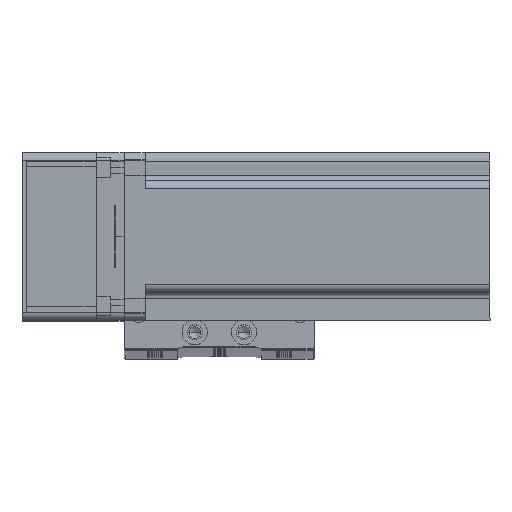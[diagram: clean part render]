
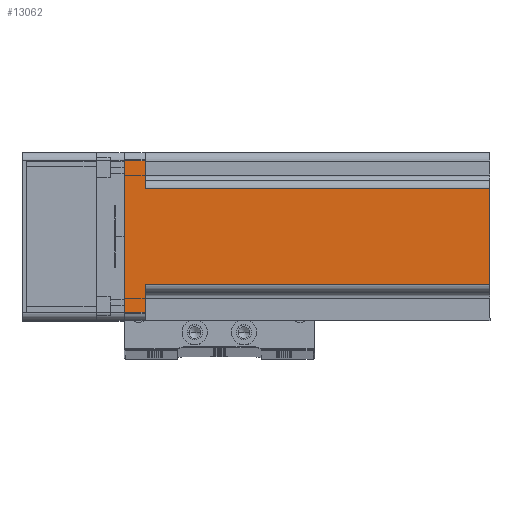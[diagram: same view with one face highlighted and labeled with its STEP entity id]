
A CAD part, top view. The second image highlights one B-rep face of the part: STEP entity #13062.
In plain terms, the highlighted planar face has unit normal (0, 0, 1) as drawn and (0, 1, 0) by its records, which use the part's own axes.
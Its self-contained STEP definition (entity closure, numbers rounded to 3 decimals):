
#2131 = LINE ( 'NONE', #20054, #27375 ) ;
#3293 = CARTESIAN_POINT ( 'NONE',  ( 27., 30., 130.7 ) ) ;
#5332 = DIRECTION ( 'NONE',  ( 1., 0., 0. ) ) ;
#5984 = DIRECTION ( 'NONE',  ( 0., -1., 0. ) ) ;
#6239 = CARTESIAN_POINT ( 'NONE',  ( 30., 30., 130.7 ) ) ;
#6434 = EDGE_CURVE ( 'NONE', #41247, #54793, #39660, .T. ) ;
#6513 = CARTESIAN_POINT ( 'NONE',  ( 20., 30., 7.5 ) ) ;
#7382 = PLANE ( 'NONE',  #10060 ) ;
#10060 = AXIS2_PLACEMENT_3D ( 'NONE', #6239, #5984, #5332 ) ;
#11048 = VERTEX_POINT ( 'NONE', #37766 ) ;
#11097 = LINE ( 'NONE', #6513, #63171 ) ;
#11552 = VERTEX_POINT ( 'NONE', #45999 ) ;
#11586 = DIRECTION ( 'NONE',  ( 0., 0., 1. ) ) ;
#13062 = ADVANCED_FACE ( 'NONE', ( #17746 ), #7382, .F. ) ;
#13360 = EDGE_CURVE ( 'NONE', #54016, #41247, #20004, .T. ) ;
#13778 = CARTESIAN_POINT ( 'NONE',  ( 17., 30., 7.5 ) ) ;
#15523 = VECTOR ( 'NONE', #42439, 1000. ) ;
#17746 = FACE_OUTER_BOUND ( 'NONE', #30673, .T. ) ;
#19145 = CARTESIAN_POINT ( 'NONE',  ( -27., 30., 0. ) ) ;
#20004 = LINE ( 'NONE', #23649, #45176 ) ;
#20054 = CARTESIAN_POINT ( 'NONE',  ( 17., 30., 130.7 ) ) ;
#20185 = ORIENTED_EDGE ( 'NONE', *, *, #64226, .T. ) ;
#21007 = ORIENTED_EDGE ( 'NONE', *, *, #13360, .T. ) ;
#21996 = CARTESIAN_POINT ( 'NONE',  ( 30., 30., 130.7 ) ) ;
#22712 = ORIENTED_EDGE ( 'NONE', *, *, #49369, .T. ) ;
#23649 = CARTESIAN_POINT ( 'NONE',  ( 30., 30., 0. ) ) ;
#24729 = ORIENTED_EDGE ( 'NONE', *, *, #58322, .T. ) ;
#25811 = EDGE_CURVE ( 'NONE', #11048, #32861, #45488, .T. ) ;
#26267 = VECTOR ( 'NONE', #42390, 1000. ) ;
#26596 = CARTESIAN_POINT ( 'NONE',  ( -17., 30., 130.7 ) ) ;
#27375 = VECTOR ( 'NONE', #29948, 1000. ) ;
#28919 = LINE ( 'NONE', #21996, #15523 ) ;
#29590 = VECTOR ( 'NONE', #48610, 1000. ) ;
#29948 = DIRECTION ( 'NONE',  ( 0., 0., -1. ) ) ;
#30673 = EDGE_LOOP ( 'NONE', ( #20185, #33510, #53296, #22712, #57299, #24729, #21007, #62991 ) ) ;
#32173 = VECTOR ( 'NONE', #11586, 1000. ) ;
#32861 = VERTEX_POINT ( 'NONE', #47149 ) ;
#33487 = CARTESIAN_POINT ( 'NONE',  ( -27., 30., 130.7 ) ) ;
#33510 = ORIENTED_EDGE ( 'NONE', *, *, #25811, .T. ) ;
#33809 = DIRECTION ( 'NONE',  ( -1., 0., 0. ) ) ;
#35924 = CARTESIAN_POINT ( 'NONE',  ( -20., 30., 7.5 ) ) ;
#36581 = CARTESIAN_POINT ( 'NONE',  ( -27., 30., 7.5 ) ) ;
#37766 = CARTESIAN_POINT ( 'NONE',  ( -17., 30., 7.5 ) ) ;
#39660 = LINE ( 'NONE', #33487, #26267 ) ;
#41247 = VERTEX_POINT ( 'NONE', #19145 ) ;
#41607 = VECTOR ( 'NONE', #46016, 1000. ) ;
#42390 = DIRECTION ( 'NONE',  ( 0., 0., 1. ) ) ;
#42439 = DIRECTION ( 'NONE',  ( -1., 0., 0. ) ) ;
#45176 = VECTOR ( 'NONE', #33809, 1000. ) ;
#45488 = LINE ( 'NONE', #26596, #32173 ) ;
#45999 = CARTESIAN_POINT ( 'NONE',  ( 17., 30., 130.7 ) ) ;
#46016 = DIRECTION ( 'NONE',  ( 1., 0., 0. ) ) ;
#47075 = EDGE_CURVE ( 'NONE', #11552, #32861, #28919, .T. ) ;
#47149 = CARTESIAN_POINT ( 'NONE',  ( -17., 30., 130.7 ) ) ;
#47216 = VERTEX_POINT ( 'NONE', #58510 ) ;
#48610 = DIRECTION ( 'NONE',  ( 0., 0., -1. ) ) ;
#49238 = LINE ( 'NONE', #3293, #29590 ) ;
#49369 = EDGE_CURVE ( 'NONE', #11552, #56677, #2131, .T. ) ;
#49796 = CARTESIAN_POINT ( 'NONE',  ( 27., 30., 0. ) ) ;
#51807 = DIRECTION ( 'NONE',  ( -1., 0., 0. ) ) ;
#53296 = ORIENTED_EDGE ( 'NONE', *, *, #47075, .F. ) ;
#54016 = VERTEX_POINT ( 'NONE', #49796 ) ;
#54793 = VERTEX_POINT ( 'NONE', #36581 ) ;
#56550 = LINE ( 'NONE', #35924, #41607 ) ;
#56677 = VERTEX_POINT ( 'NONE', #13778 ) ;
#57299 = ORIENTED_EDGE ( 'NONE', *, *, #59548, .F. ) ;
#58322 = EDGE_CURVE ( 'NONE', #47216, #54016, #49238, .T. ) ;
#58510 = CARTESIAN_POINT ( 'NONE',  ( 27., 30., 7.5 ) ) ;
#59548 = EDGE_CURVE ( 'NONE', #47216, #56677, #11097, .T. ) ;
#62991 = ORIENTED_EDGE ( 'NONE', *, *, #6434, .T. ) ;
#63171 = VECTOR ( 'NONE', #51807, 1000. ) ;
#64226 = EDGE_CURVE ( 'NONE', #54793, #11048, #56550, .T. ) ;
